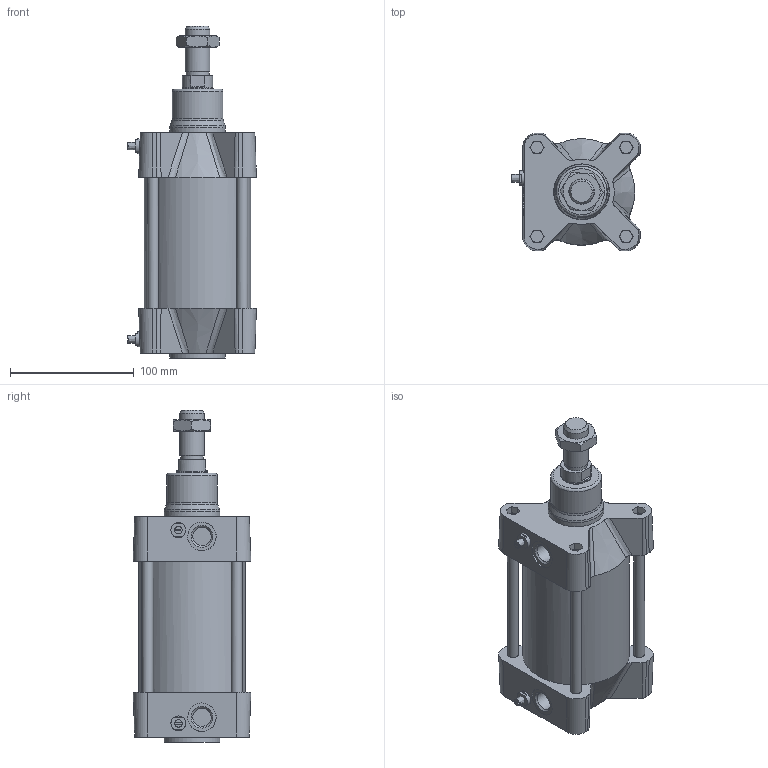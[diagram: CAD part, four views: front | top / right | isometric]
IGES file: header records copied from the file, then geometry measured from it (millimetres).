
Global section: file name: 1393_080_0050_01; native system: Autodesk Inventor 2014; preprocessor: unknown; author: A. Manieri; date: 20151130.150718; units: millimetre
Bounding box: 104 x 95 x 268 mm (x, y, z)
Volume: 962635.9 mm3; surface area: 176872.7 mm2
Topology: 3 solids, 5 shells, 233 faces, 578 edges, 377 vertices
Faces by surface type: bspline 233
